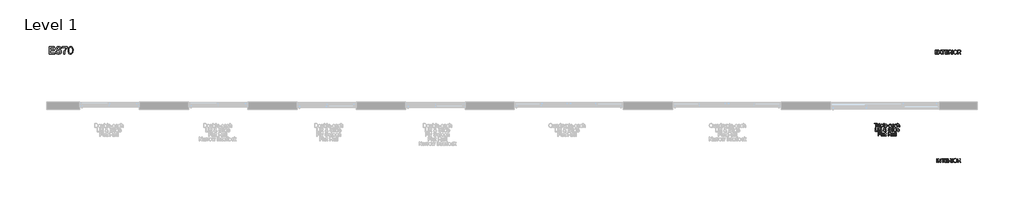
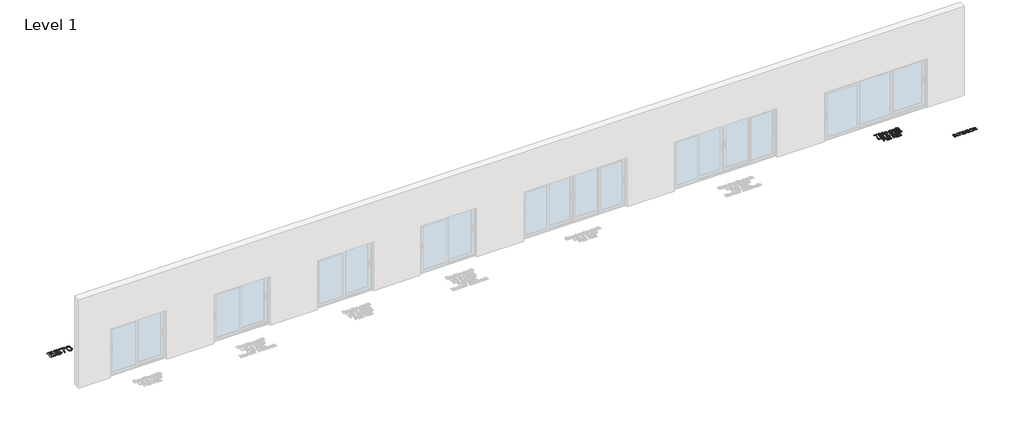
# One storey, part 7 of 7: 4 proxies.
"""IFC4 building model written with IfcOpenShell, lengths in millimetres."""

from ifc_helpers import new_model, si_unit, origin, origin_with_axes, place, context, project, spatial, polyline, outline, extrude, element, save

model = new_model("IFC4")

# Units and contexts
model_context = context("Model", 3, world=origin())
ifc_project = project(units=[si_unit("LENGTHUNIT", "METRE", prefix="MILLI")], contexts=[model_context])

# Site, building, storey
site = spatial("IfcSite", under=ifc_project)
building = spatial("IfcBuilding", under=site)
storey = spatial("IfcBuildingStorey", under=building, Name="Level 1", Elevation=0.0)

# Proxies
placement = place(None, origin())
element("IfcBuildingElementProxy", 1, Name="150mm Arial", ObjectType="150mm Arial", at=placement, inside=storey, context=model_context, shape_type="SweptSolid", body=[
    extrude(outline(polyline([(27815.5972472, 2081.2868462), (27815.5972472, 2231.9713114), (27923.9017066, 2231.9713114), (27923.9017066, 2213.1357532), (27834.4328053, 2213.1357532), (27834.4328053, 2168.4013026), (27919.192817, 2168.4013026), (27919.192817, 2149.5657445), (27834.4328053, 2149.5657445), (27834.4328053, 2100.1224043), (27926.2561513, 2100.1224043), (27926.2561513, 2081.2868462), (27815.5972472, 2081.2868462)])), origin_with_axes(), (0.0, 0.0, 1.0), 10.0),
    extrude(outline(polyline([(27938.0283752, 2081.2868462), (27996.1169422, 2163.3981075), (27947.4461543, 2231.9713114), (27970.0341088, 2231.9713114), (27997.4413174, 2193.3804901), (28006.6751555, 2178.3341165), (28017.4908861, 2193.6380075), (28044.6037892, 2231.9713114), (28067.5228375, 2231.9713114), (28018.8520495, 2163.1773783), (28076.9406166, 2081.2868462), (28054.3526621, 2081.2868462), (28015.6514762, 2135.8805342), (28007.5948605, 2147.2112997), (27998.7289044, 2134.7768883), (27960.9474235, 2081.2868462), (27938.0283752, 2081.2868462)])), origin_with_axes(), (0.0, 0.0, 1.0), 10.0),
    extrude(outline(polyline([(28133.447291, 2081.2868462), (28133.447291, 2213.1357532), (28084.0039509, 2213.1357532), (28084.0039509, 2231.9713114), (28201.7261893, 2231.9713114), (28201.7261893, 2213.1357532), (28152.2828492, 2213.1357532), (28152.2828492, 2081.2868462), (28133.447291, 2081.2868462)])), origin_with_axes(), (0.0, 0.0, 1.0), 10.0),
    extrude(outline(polyline([(28222.9161922, 2081.2868462), (28222.9161922, 2231.9713114), (28331.2206516, 2231.9713114), (28331.2206516, 2213.1357532), (28241.7517504, 2213.1357532), (28241.7517504, 2168.4013026), (28326.5117621, 2168.4013026), (28326.5117621, 2149.5657445), (28241.7517504, 2149.5657445), (28241.7517504, 2100.1224043), (28333.5750964, 2100.1224043), (28333.5750964, 2081.2868462), (28222.9161922, 2081.2868462)])), origin_with_axes(), (0.0, 0.0, 1.0), 10.0),
    extrude(outline(polyline([(28361.8284336, 2081.2868462), (28361.8284336, 2231.9713114), (28426.7596058, 2231.9713114), (28456.9075353, 2227.9062153), (28466.1873586, 2222.2776208), (28473.3886487, 2213.5220293), (28478.0101662, 2202.6649119), (28479.5506721, 2190.7317397), (28476.9984907, 2175.8877012), (28469.3419467, 2163.5820485), (28456.3511138, 2154.5597425), (28437.7960656, 2149.5657445), (28448.5014317, 2141.5091288), (28463.7685345, 2122.1217476), (28488.8948748, 2081.2868462), (28467.005896, 2081.2868462), (28447.3977857, 2112.5200275), (28433.2343289, 2133.1949957), (28423.2831209, 2142.9622626), (28414.3251943, 2146.5491121), (28403.3990991, 2147.2112997), (28380.6639918, 2147.2112997), (28380.6639918, 2081.2868462), (28361.8284336, 2081.2868462)]), holes=[polyline([(28380.6639918, 2166.0468578), (28422.8232684, 2166.0468578), (28444.325971, 2168.7140023), (28456.5396533, 2177.2488646), (28460.7151139, 2190.0327639), (28458.7239526, 2199.2206168), (28452.7504687, 2206.6242419), (28442.4727655, 2211.5078754), (28427.5689462, 2213.1357532), (28380.6639918, 2213.1357532), (28380.6639918, 2166.0468578)])]), origin_with_axes(), (0.0, 0.0, 1.0), 10.0),
    extrude(outline(polyline([(28514.8673436, 2081.2868462), (28514.8673436, 2231.9713114), (28533.7029018, 2231.9713114), (28533.7029018, 2081.2868462), (28514.8673436, 2081.2868462)])), origin_with_axes(), (0.0, 0.0, 1.0), 10.0),
    extrude(outline(polyline([(28564.3106838, 2154.642516), (28569.332273, 2187.9634277), (28575.6092595, 2201.5819593), (28584.3970407, 2213.1725414), (28607.3988625, 2229.0374525), (28636.2316138, 2234.3257562), (28655.996074, 2231.8425527), (28673.7187891, 2224.3929423), (28688.4340689, 2212.5011568), (28699.1762232, 2196.691428), (28705.7429168, 2177.7271112), (28707.9318147, 2156.3715614), (28705.6279537, 2134.730903), (28698.7163707, 2115.4998717), (28687.5787433, 2099.6625518), (28672.5967491, 2088.2030277), (28655.0257853, 2081.250058), (28636.1212492, 2078.9324014), (28616.0532864, 2081.4937798), (28598.2294037, 2089.177915), (28583.5509121, 2101.2904296), (28572.9191225, 2117.1369466), (28566.4627934, 2135.370098), (28564.3106838, 2154.642516)]), holes=[polyline([(28583.1462419, 2154.458575), (28586.9124339, 2130.8865362), (28598.2110096, 2112.9246977), (28615.1933622, 2101.5571441), (28636.0108846, 2097.7679595), (28657.1319097, 2101.5939323), (28674.1418534, 2113.0718505), (28685.3576558, 2131.5855119), (28689.0962565, 2156.5187142), (28687.4959699, 2173.1929656), (28682.6951098, 2187.6047428), (28674.8178366, 2199.3907622), (28663.9883104, 2208.1877404), (28650.923901, 2213.6645836), (28636.3419784, 2215.490198), (28616.0808775, 2211.9723264), (28598.8548031, 2201.4187117), (28587.0733822, 2182.6429344), (28583.1462419, 2154.458575)])]), origin_with_axes(), (0.0, 0.0, 1.0), 10.0),
    extrude(outline(polyline([(28733.8307072, 2081.2868462), (28733.8307072, 2231.9713114), (28798.7618793, 2231.9713114), (28828.9098088, 2227.9062153), (28838.1896321, 2222.2776208), (28845.3909222, 2213.5220293), (28850.0124398, 2202.6649119), (28851.5529456, 2190.7317397), (28849.0007643, 2175.8877012), (28841.3442202, 2163.5820485), (28828.3533873, 2154.5597425), (28809.7983392, 2149.5657445), (28820.5037052, 2141.5091288), (28835.770808, 2122.1217476), (28860.8971483, 2081.2868462), (28839.0081696, 2081.2868462), (28819.4000592, 2112.5200275), (28805.2366024, 2133.1949957), (28795.2853944, 2142.9622626), (28786.3274679, 2146.5491121), (28775.4013726, 2147.2112997), (28752.6662653, 2147.2112997), (28752.6662653, 2081.2868462), (28733.8307072, 2081.2868462)]), holes=[polyline([(28752.6662653, 2166.0468578), (28794.825542, 2166.0468578), (28816.3282446, 2168.7140023), (28828.5419268, 2177.2488646), (28832.7173875, 2190.0327639), (28830.7262262, 2199.2206168), (28824.7527423, 2206.6242419), (28814.475039, 2211.5078754), (28799.5712197, 2213.1357532), (28752.6662653, 2213.1357532), (28752.6662653, 2166.0468578)])]), origin_with_axes(), (0.0, 0.0, 1.0), 10.0),
])
element("IfcBuildingElementProxy", 2, Name="150mm Arial", ObjectType="150mm Arial", at=placement, inside=storey, context=model_context, shape_type="SweptSolid", body=[
    extrude(outline(polyline([(27877.951692, -2318.7131538), (27877.951692, -2168.0286886), (27896.7872501, -2168.0286886), (27896.7872501, -2318.7131538), (27877.951692, -2318.7131538)])), origin_with_axes(), (0.0, 0.0, 1.0), 10.0),
    extrude(outline(polyline([(27934.4583664, -2318.7131538), (27934.4583664, -2168.0286886), (27954.6182998, -2168.0286886), (28033.3450467, -2287.4063961), (28033.3450467, -2168.0286886), (28052.1806049, -2168.0286886), (28052.1806049, -2318.7131538), (28032.0206715, -2318.7131538), (27953.2939246, -2199.2986582), (27953.2939246, -2318.7131538), (27934.4583664, -2318.7131538)])), origin_with_axes(), (0.0, 0.0, 1.0), 10.0),
    extrude(outline(polyline([(28122.8139479, -2318.7131538), (28122.8139479, -2186.8642468), (28073.3706078, -2186.8642468), (28073.3706078, -2168.0286886), (28191.0928463, -2168.0286886), (28191.0928463, -2186.8642468), (28141.6495061, -2186.8642468), (28141.6495061, -2318.7131538), (28122.8139479, -2318.7131538)])), origin_with_axes(), (0.0, 0.0, 1.0), 10.0),
    extrude(outline(polyline([(28212.2828492, -2318.7131538), (28212.2828492, -2168.0286886), (28320.5873086, -2168.0286886), (28320.5873086, -2186.8642468), (28231.1184073, -2186.8642468), (28231.1184073, -2231.5986974), (28315.878419, -2231.5986974), (28315.878419, -2250.4342555), (28231.1184073, -2250.4342555), (28231.1184073, -2299.8775957), (28322.9417533, -2299.8775957), (28322.9417533, -2318.7131538), (28212.2828492, -2318.7131538)])), origin_with_axes(), (0.0, 0.0, 1.0), 10.0),
    extrude(outline(polyline([(28351.1950906, -2318.7131538), (28351.1950906, -2168.0286886), (28416.1262627, -2168.0286886), (28446.2741922, -2172.0937847), (28455.5540155, -2177.7223792), (28462.7553056, -2186.4779707), (28467.3768232, -2197.3350881), (28468.917329, -2209.2682603), (28466.3651477, -2224.1122988), (28458.7086036, -2236.4179515), (28445.7177707, -2245.4402575), (28427.1627226, -2250.4342555), (28437.8680886, -2258.4908712), (28453.1351914, -2277.8782524), (28478.2615317, -2318.7131538), (28456.372553, -2318.7131538), (28436.7644426, -2287.4799725), (28422.6009858, -2266.8050043), (28412.6497778, -2257.0377374), (28403.6918513, -2253.4508879), (28392.765756, -2252.7887003), (28370.0306487, -2252.7887003), (28370.0306487, -2318.7131538), (28351.1950906, -2318.7131538)]), holes=[polyline([(28370.0306487, -2233.9531422), (28412.1899254, -2233.9531422), (28433.692628, -2231.2859977), (28445.9063102, -2222.7511354), (28450.0817709, -2209.9672361), (28448.0906096, -2200.7793832), (28442.1171257, -2193.3757581), (28431.8394224, -2188.4921246), (28416.9356031, -2186.8642468), (28370.0306487, -2186.8642468), (28370.0306487, -2233.9531422)])]), origin_with_axes(), (0.0, 0.0, 1.0), 10.0),
    extrude(outline(polyline([(28504.2340005, -2318.7131538), (28504.2340005, -2168.0286886), (28523.0695587, -2168.0286886), (28523.0695587, -2318.7131538), (28504.2340005, -2318.7131538)])), origin_with_axes(), (0.0, 0.0, 1.0), 10.0),
    extrude(outline(polyline([(28553.6773407, -2245.357484), (28558.6989299, -2212.0365723), (28564.9759165, -2198.4180407), (28573.7636976, -2186.8274586), (28596.7655194, -2170.9625475), (28625.5982708, -2165.6742438), (28645.3627309, -2168.1574473), (28663.0854461, -2175.6070577), (28677.8007259, -2187.4988432), (28688.5428801, -2203.308572), (28695.1095737, -2222.2728888), (28697.2984716, -2243.6284386), (28694.9946106, -2265.269097), (28688.0830276, -2284.5001283), (28676.9454002, -2300.3374482), (28661.963406, -2311.7969723), (28644.3924422, -2318.749942), (28625.4879062, -2321.0675986), (28605.4199433, -2318.5062202), (28587.5960607, -2310.822085), (28572.917569, -2298.7095704), (28562.2857794, -2282.8630534), (28555.8294504, -2264.629902), (28553.6773407, -2245.357484)]), holes=[polyline([(28572.5128989, -2245.541425), (28576.2790908, -2269.1134638), (28587.5776666, -2287.0753023), (28604.5600192, -2298.4428559), (28625.3775416, -2302.2320405), (28646.4985666, -2298.4060677), (28663.5085104, -2286.9281495), (28674.7243127, -2268.4144881), (28678.4629135, -2243.4812858), (28676.8626268, -2226.8070344), (28672.0617667, -2212.3952572), (28664.1844935, -2200.6092378), (28653.3549673, -2191.8122596), (28640.2905579, -2186.3354164), (28625.7086354, -2184.509802), (28605.4475345, -2188.0276736), (28588.22146, -2198.5812883), (28576.4400392, -2217.3570656), (28572.5128989, -2245.541425)])]), origin_with_axes(), (0.0, 0.0, 1.0), 10.0),
    extrude(outline(polyline([(28723.1973641, -2318.7131538), (28723.1973641, -2168.0286886), (28788.1285362, -2168.0286886), (28818.2764657, -2172.0937847), (28827.5562891, -2177.7223792), (28834.7575791, -2186.4779707), (28839.3790967, -2197.3350881), (28840.9196025, -2209.2682603), (28838.3674212, -2224.1122988), (28830.7108772, -2236.4179515), (28817.7200442, -2245.4402575), (28799.1649961, -2250.4342555), (28809.8703621, -2258.4908712), (28825.1374649, -2277.8782524), (28850.2638052, -2318.7131538), (28828.3748265, -2318.7131538), (28808.7667162, -2287.4799725), (28794.6032593, -2266.8050043), (28784.6520514, -2257.0377374), (28775.6941248, -2253.4508879), (28764.7680295, -2252.7887003), (28742.0329222, -2252.7887003), (28742.0329222, -2318.7131538), (28723.1973641, -2318.7131538)]), holes=[polyline([(28742.0329222, -2233.9531422), (28784.1921989, -2233.9531422), (28805.6949015, -2231.2859977), (28817.9085837, -2222.7511354), (28822.0840444, -2209.9672361), (28820.0928831, -2200.7793832), (28814.1193992, -2193.3757581), (28803.8416959, -2188.4921246), (28788.9378766, -2186.8642468), (28742.0329222, -2186.8642468), (28742.0329222, -2233.9531422)])]), origin_with_axes(), (0.0, 0.0, 1.0), 10.0),
])
element("IfcBuildingElementProxy", 3, Name="150mm Arial", ObjectType="150mm Arial", at=placement, inside=storey, context=model_context, shape_type="SweptSolid", body=[
    extrude(outline(polyline([(25405.2111574, -880.8951535), (25405.2111574, -749.0462465), (25355.7678172, -749.0462465), (25355.7678172, -730.2106883), (25473.4900557, -730.2106883), (25473.4900557, -749.0462465), (25424.0467155, -749.0462465), (25424.0467155, -880.8951535), (25405.2111574, -880.8951535)])), origin_with_axes(), (0.0, 0.0, 1.0), 10.0),
    extrude(outline(polyline([(25492.3256138, -880.8951535), (25492.3256138, -770.2362494), (25508.8067272, -770.2362494), (25508.8067272, -786.6069982), (25520.5053747, -771.5238364), (25532.2775985, -767.8818046), (25551.1867331, -773.6943401), (25544.895951, -790.5801237), (25531.6521991, -786.7173628), (25521.0020154, -790.4329709), (25514.2145926, -800.7336668), (25511.161172, -822.7330101), (25511.161172, -880.8951535), (25492.3256138, -880.8951535)])), origin_with_axes(), (0.0, 0.0, 1.0), 10.0),
    extrude(outline(polyline([(25562.9589569, -749.0462465), (25562.9589569, -730.2106883), (25581.7945151, -730.2106883), (25581.7945151, -749.0462465), (25562.9589569, -749.0462465)])), origin_with_axes(), (0.0, 0.0, 1.0), 10.0),
    extrude(outline(polyline([(25562.9589569, -880.8951535), (25562.9589569, -770.2362494), (25581.7945151, -770.2362494), (25581.7945151, -880.8951535), (25562.9589569, -880.8951535)])), origin_with_axes(), (0.0, 0.0, 1.0), 10.0),
    extrude(outline(polyline([(25610.0478523, -923.2751594), (25610.0478523, -770.2362494), (25628.8834105, -770.2362494), (25628.8834105, -788.7039256), (25641.9064331, -773.0873349), (25659.4911925, -767.8818046), (25672.2291065, -769.7028205), (25683.3667339, -775.1658681), (25692.4350251, -783.9398537), (25698.9649305, -795.6936835), (25704.2256431, -824.7195729), (25702.7403195, -840.8282057), (25698.2843488, -855.2353844), (25691.0002853, -867.2099433), (25681.0306833, -876.0207171), (25669.4194078, -881.442378), (25657.2103241, -883.2495983), (25640.8211812, -878.4119501), (25628.8834105, -866.1798737), (25628.8834105, -923.2751594), (25610.0478523, -923.2751594)]), holes=[polyline([(25628.8834105, -826.4486183), (25630.920557, -843.3344018), (25637.0319966, -855.1434139), (25646.0497041, -862.0963836), (25656.8056539, -864.4140402), (25667.7363477, -862.0136101), (25676.9839813, -854.8123201), (25683.288559, -842.5710467), (25685.3900849, -825.0506667), (25683.3391428, -808.2568536), (25677.1863164, -796.2822947), (25668.1824046, -789.1085957), (25657.5782061, -786.7173628), (25646.9326208, -789.2603471), (25637.5838196, -796.8892999), (25631.0585128, -809.3650981), (25628.8834105, -826.4486183)])]), origin_with_axes(), (0.0, 0.0, 1.0), 10.0),
    extrude(outline(polyline([(25725.415646, -880.8951535), (25725.415646, -730.2106883), (25744.2512041, -730.2106883), (25744.2512041, -880.8951535), (25725.415646, -880.8951535)])), origin_with_axes(), (0.0, 0.0, 1.0), 10.0),
    extrude(outline(polyline([(25849.9804896, -847.9329268), (25868.4481657, -850.2873715), (25861.7941001, -864.202508), (25851.176106, -874.6043714), (25836.8333068, -881.0882916), (25819.0048256, -883.2495983), (25796.9043147, -879.5201946), (25779.8989695, -868.3319834), (25769.0556477, -850.4115317), (25765.4412071, -826.4854065), (25769.0924359, -801.7545393), (25780.0461223, -783.259272), (25796.8215413, -771.7261715), (25817.9379678, -767.8818046), (25838.3968052, -771.7169744), (25854.7445614, -783.2224838), (25865.463723, -801.6809629), (25869.0367769, -826.3750419), (25868.9264123, -831.4518134), (25784.2767652, -831.4518134), (25787.5371194, -845.5508909), (25795.11089, -855.9159661), (25806.0415838, -862.2895216), (25819.3727076, -864.4140402), (25837.8403837, -860.4777028), (25849.9804896, -847.9329268)]), holes=[polyline([(25784.2767652, -812.6162552), (25850.2012188, -812.6162552), (25847.6536359, -802.6650473), (25842.6596379, -795.5465307), (25831.6783603, -788.9246547), (25817.8643914, -786.7173628), (25805.167864, -788.4785978), (25794.6694316, -793.762303), (25787.3715725, -801.9982612), (25784.2767652, -812.6162552)])]), origin_with_axes(), (0.0, 0.0, 1.0), 10.0),
    extrude(outline(polyline([(25878.454556, -836.1607029), (25878.454556, -817.3251448), (25937.3156752, -817.3251448), (25937.3156752, -836.1607029), (25878.454556, -836.1607029)])), origin_with_axes(), (0.0, 0.0, 1.0), 10.0),
    extrude(outline(polyline([(25951.4423438, -847.9329268), (25970.277902, -845.578482), (25973.2485491, -853.6350977), (25978.9967053, -859.5579978), (25998.9726976, -864.4140402), (26018.1761378, -859.962668), (26024.4301317, -849.5148194), (26022.8574361, -844.7139593), (26018.1393496, -841.0535335), (25998.7519684, -835.6824563), (25970.3882666, -826.4670124), (25958.0090374, -815.706464), (25953.7967886, -800.5129376), (25957.181303, -786.4782395), (25966.415141, -775.7544793), (25978.3897, -770.1810671), (25994.5949019, -767.8818046), (26017.5139502, -771.5790187), (26032.0820772, -781.5854089), (26038.5568003, -798.4895866), (26019.7212421, -800.8440314), (26012.6395137, -790.451365), (25996.0664298, -786.7173628), (25978.0402121, -790.2858181), (25972.6323467, -798.5999512), (25974.8764269, -804.0813929), (25981.902973, -808.2384595), (25998.126569, -812.2483732), (26025.772901, -821.1143293), (26038.6119826, -831.1575078), (26043.2656898, -847.5282566), (26037.8026422, -865.5544743), (26022.0388987, -878.6326793), (25998.7151802, -883.2495983), (25979.7232722, -881.0239122), (25965.863318, -874.346854), (25956.6110859, -863.2920001), (25951.4423438, -847.9329268)])), origin_with_axes(), (0.0, 0.0, 1.0), 10.0),
    extrude(outline(polyline([(26135.0890358, -866.7684849), (26116.8236948, -879.5339902), (26096.6453673, -883.2495983), (26080.9046165, -881.0147152), (26069.293341, -874.3100658), (26062.1334377, -864.1289316), (26059.7468032, -851.4645939), (26063.3520468, -836.5653731), (26072.8250081, -825.7496425), (26086.0135777, -819.5692249), (26102.31075, -816.7365336), (26134.9786712, -810.2618105), (26135.0890358, -806.0679557), (26133.7922518, -797.6618521), (26129.9018997, -792.1620163), (26121.2014905, -788.0785262), (26109.0797788, -786.7173628), (26090.0234914, -790.3410004), (26080.9368061, -803.1984762), (26062.101248, -800.8440314), (26070.2498342, -782.4499316), (26086.6573712, -771.6709892), (26111.5077999, -767.8818046), (26134.3348777, -771.2295308), (26147.2291417, -779.6356344), (26153.004889, -792.4195337), (26153.924594, -808.9006471), (26153.924594, -832.3347302), (26154.8810872, -865.0578336), (26158.6334835, -880.8951535), (26139.7979254, -880.8951535), (26135.0890358, -866.7684849)]), holes=[polyline([(26135.0890358, -829.0973686), (26104.701983, -834.8731159), (26088.4967811, -837.9265365), (26081.1575353, -842.8929434), (26078.5823614, -850.1402187), (26084.1925618, -860.33055), (26100.6552811, -864.4140402), (26119.7115684, -859.9074857), (26131.9988271, -848.9997846), (26134.9786712, -834.4316576), (26135.0890358, -829.0973686)])]), origin_with_axes(), (0.0, 0.0, 1.0), 10.0),
    extrude(outline(polyline([(26172.7601521, -847.9329268), (26191.5957103, -845.578482), (26194.5663574, -853.6350977), (26200.3145136, -859.5579978), (26220.2905059, -864.4140402), (26239.493946, -859.962668), (26245.74794, -849.5148194), (26244.1752444, -844.7139593), (26239.4571579, -841.0535335), (26220.0697767, -835.6824563), (26191.7060749, -826.4670124), (26179.3268457, -815.706464), (26175.1145969, -800.5129376), (26178.4991112, -786.4782395), (26187.7329493, -775.7544793), (26199.7075083, -770.1810671), (26215.9127102, -767.8818046), (26238.8317585, -771.5790187), (26253.3998855, -781.5854089), (26259.8746086, -798.4895866), (26241.0390504, -800.8440314), (26233.957322, -790.451365), (26217.3842381, -786.7173628), (26199.3580204, -790.2858181), (26193.950155, -798.5999512), (26196.1942352, -804.0813929), (26203.2207813, -808.2384595), (26219.4443773, -812.2483732), (26247.0907093, -821.1143293), (26259.9297909, -831.1575078), (26264.5834981, -847.5282566), (26259.1204505, -865.5544743), (26243.356707, -878.6326793), (26220.0329885, -883.2495983), (26201.0410805, -881.0239122), (26187.1811263, -874.346854), (26177.9288942, -863.2920001), (26172.7601521, -847.9329268)])), origin_with_axes(), (0.0, 0.0, 1.0), 10.0),
    extrude(outline(polyline([(26285.773501, -880.8951535), (26285.773501, -730.2106883), (26304.6090592, -730.2106883), (26304.6090592, -785.6137168), (26319.2967479, -772.3147827), (26337.387345, -767.8818046), (26358.5405597, -772.7194529), (26371.3796413, -786.0919634), (26375.2424023, -810.8504217), (26375.2424023, -880.8951535), (26356.4068441, -880.8951535), (26356.4068441, -812.8001962), (26354.907725, -801.0095783), (26350.4103676, -792.9345685), (26343.1630923, -788.2716642), (26333.4142194, -786.7173628), (26317.9815697, -790.9112175), (26307.6808739, -802.2787712), (26304.6090592, -822.1076107), (26304.6090592, -880.8951535), (26285.773501, -880.8951535)])), origin_with_axes(), (0.0, 0.0, 1.0), 10.0),
    extrude(outline(polyline([(25384.0211545, -1063.8573803), (25384.0211545, -913.1729151), (25402.8567126, -913.1729151), (25402.8567126, -1045.0218222), (25478.1989452, -1045.0218222), (25478.1989452, -1063.8573803), (25384.0211545, -1063.8573803)])), origin_with_axes(), (0.0, 0.0, 1.0), 10.0),
    extrude(outline(polyline([(25497.0345034, -932.0084732), (25497.0345034, -913.1729151), (25515.8700615, -913.1729151), (25515.8700615, -932.0084732), (25497.0345034, -932.0084732)])), origin_with_axes(), (0.0, 0.0, 1.0), 10.0),
    extrude(outline(polyline([(25497.0345034, -1063.8573803), (25497.0345034, -953.1984762), (25515.8700615, -953.1984762), (25515.8700615, -1063.8573803), (25497.0345034, -1063.8573803)])), origin_with_axes(), (0.0, 0.0, 1.0), 10.0),
    extrude(outline(polyline([(25548.8322883, -1063.8573803), (25548.8322883, -972.0340343), (25532.3511749, -972.0340343), (25532.3511749, -953.1984762), (25548.8322883, -953.1984762), (25548.8322883, -942.0516517), (25550.8188511, -926.3430905), (25560.4573594, -915.1226897), (25579.4400703, -910.8184703), (25596.6201595, -912.8786095), (25593.8610445, -930.5369453), (25583.0085257, -929.6540285), (25571.1443313, -932.7810254), (25567.6678465, -944.4428847), (25567.6678465, -953.1984762), (25588.8578494, -953.1984762), (25588.8578494, -972.0340343), (25567.6678465, -972.0340343), (25567.6678465, -1063.8573803), (25548.8322883, -1063.8573803)])), origin_with_axes(), (0.0, 0.0, 1.0), 10.0),
    extrude(outline(polyline([(25645.3645238, -1048.1488191), (25647.7189686, -1064.4092033), (25633.6290882, -1066.2118251), (25617.8469506, -1063.0848281), (25609.9742759, -1054.8810596), (25607.6934075, -1033.5071157), (25607.6934075, -972.0340343), (25593.5667389, -972.0340343), (25593.5667389, -953.1984762), (25607.6934075, -953.1984762), (25607.6934075, -926.3063023), (25626.5289657, -915.2330543), (25626.5289657, -953.1984762), (25645.3645238, -953.1984762), (25645.3645238, -972.0340343), (25626.5289657, -972.0340343), (25626.5289657, -1032.9552927), (25627.5222471, -1042.6673774), (25630.7412145, -1046.107074), (25637.1607553, -1047.3762669), (25645.3645238, -1048.1488191)])), origin_with_axes(), (0.0, 0.0, 1.0), 10.0),
    extrude(outline(polyline([(25809.4766819, -1045.2425514), (25789.5006895, -1060.9695066), (25766.1401829, -1066.2118251), (25745.3548501, -1062.33067), (25729.3519833, -1050.6872049), (25721.1022296, -1037.2871032), (25718.3523117, -1022.3970795), (25720.5642022, -1009.1993129), (25727.1998737, -997.3443156), (25738.231735, -986.8412846), (25753.632195, -977.699417), (25740.4804137, -958.6431297), (25737.1878698, -944.5164611), (25739.7814379, -931.7969411), (25747.5621421, -920.8616488), (25759.2699866, -913.3292649), (25773.6449756, -910.8184703), (25787.3209887, -913.2189003), (25798.256281, -920.4201904), (25805.4299799, -930.9876007), (25807.8212129, -943.4863915), (25806.0507808, -953.9802254), (25800.7394845, -963.683113), (25779.4942993, -980.7160494), (25806.7543551, -1014.6715576), (25814.8845472, -993.8126484), (25833.7201054, -997.8961386), (25820.4027771, -1028.9085908), (25843.1378844, -1051.7172745), (25829.0112158, -1066.2118251), (25809.4766819, -1045.2425514)]), holes=[polyline([(25769.9661556, -968.833461), (25785.4539876, -957.1532076), (25788.9856548, -946.0615655), (25784.3319475, -934.2341593), (25772.6884824, -929.6540285), (25760.7874998, -934.1973711), (25756.023428, -945.2890133), (25757.6421088, -952.1868007), (25762.5349393, -959.8571403), (25769.9661556, -968.833461)]), polyline([(25796.8583295, -1031.6677057), (25763.2339151, -989.6923701), (25742.5405529, -1005.4745077), (25737.1878698, -1019.8954819), (25739.0180828, -1028.7798321), (25744.5087215, -1037.995276), (25753.3562835, -1045.0310192), (25765.2572661, -1047.3762669), (25782.5661139, -1042.9984712), (25796.8583295, -1031.6677057)])]), origin_with_axes(), (0.0, 0.0, 1.0), 10.0),
    extrude(outline(polyline([(25916.1256723, -1012.0595954), (25934.9612304, -1012.0595954), (25941.0312834, -1030.9135476), (25955.8569278, -1042.8329243), (25978.4448823, -1047.3762669), (25998.126569, -1043.9365703), (26010.8368919, -1034.482003), (26015.0123526, -1021.8452565), (26011.8853556, -1010.0914267), (25999.0830622, -1001.5381703), (25971.6574595, -994.3460773), (25942.1349293, -985.0570569), (25926.1136685, -971.0407529), (25920.8345618, -952.3155594), (25922.4670382, -941.283698), (25927.3644672, -930.9967978), (25935.3980903, -922.2779945), (25946.4391487, -915.9504241), (25974.3613921, -910.8184703), (26004.1598337, -916.1895474), (26015.5825697, -922.8206204), (26024.0254615, -931.971685), (26029.3689475, -943.0725242), (26031.493466, -955.5529209), (26012.6579078, -955.5529209), (26009.1998171, -944.314126), (26001.98933, -936.202328), (25990.7229439, -931.2911033), (25975.0971561, -929.6540285), (25959.1034864, -931.2727092), (25948.1314059, -936.1287516), (25941.7854415, -943.2748593), (25939.67012, -951.7637364), (25941.1692391, -959.0018146), (25945.6665965, -964.8235472), (25976.4215313, -975.3449723), (26009.7516401, -984.7995395), (26020.4891958, -991.6329476), (26027.9801929, -1000.0666423), (26032.3809813, -1010.0086533), (26033.8479107, -1021.3670099), (26032.1602521, -1032.9782853), (26027.0972761, -1043.8997821), (26018.8659165, -1053.299167), (26007.6731068, -1060.3441073), (25994.2132243, -1064.7448956), (25979.1806463, -1066.2118251), (25960.7267657, -1064.6299325), (25945.5378378, -1059.8842548), (25933.4391187, -1051.9563978), (25924.2558644, -1040.8279674), (25918.3605554, -1027.2715159), (25916.1256723, -1012.0595954)])), origin_with_axes(), (0.0, 0.0, 1.0), 10.0),
    extrude(outline(polyline([(26059.7468032, -1063.8573803), (26059.7468032, -913.1729151), (26078.5823614, -913.1729151), (26078.5823614, -1063.8573803), (26059.7468032, -1063.8573803)])), origin_with_axes(), (0.0, 0.0, 1.0), 10.0),
    extrude(outline(polyline([(26106.8356986, -932.0084732), (26106.8356986, -913.1729151), (26125.6712567, -913.1729151), (26125.6712567, -932.0084732), (26106.8356986, -932.0084732)])), origin_with_axes(), (0.0, 0.0, 1.0), 10.0),
    extrude(outline(polyline([(26106.8356986, -1063.8573803), (26106.8356986, -953.1984762), (26125.6712567, -953.1984762), (26125.6712567, -1063.8573803), (26106.8356986, -1063.8573803)])), origin_with_axes(), (0.0, 0.0, 1.0), 10.0),
    extrude(outline(polyline([(26222.2034923, -1063.8573803), (26222.2034923, -1046.0886799), (26209.7414897, -1061.1810388), (26192.5154153, -1066.2118251), (26180.3385212, -1064.3908092), (26169.1916968, -1058.9277616), (26159.7555236, -1050.2043598), (26152.7105834, -1038.6022813), (26148.3235906, -1024.5905758), (26146.8612597, -1008.6382928), (26152.2507309, -978.6559102), (26158.9829714, -966.7641247), (26168.4007505, -958.0177303), (26179.7912968, -952.6374561), (26192.4418389, -950.8440314), (26209.805869, -955.9759852), (26222.2034923, -969.3117075), (26222.2034923, -913.1729151), (26241.0390504, -913.1729151), (26241.0390504, -1063.8573803), (26222.2034923, -1063.8573803)]), holes=[polyline([(26165.6968178, -1008.5647164), (26167.8213363, -1025.6022513), (26174.1948919, -1037.7193646), (26183.4563211, -1044.9620413), (26194.2444606, -1047.3762669), (26205.0280016, -1045.0724059), (26214.0549061, -1038.1608229), (26220.1663457, -1026.5127593), (26222.2034923, -1009.9994562), (26220.1295575, -991.9456473), (26213.9077533, -979.4284624), (26204.6509226, -972.1168078), (26193.4719085, -969.6795895), (26182.5734043, -972.0202387), (26173.6430689, -979.0421863), (26167.6833806, -991.1041172), (26165.6968178, -1008.5647164)])]), origin_with_axes(), (0.0, 0.0, 1.0), 10.0),
    extrude(outline(polyline([(26346.7683358, -1030.8951535), (26365.236012, -1033.2495983), (26358.5819464, -1047.1647348), (26347.9639523, -1057.5665982), (26333.621153, -1064.0505184), (26315.7926718, -1066.2118251), (26293.692161, -1062.4824214), (26276.6868158, -1051.2942102), (26265.843494, -1033.3737585), (26262.2290534, -1009.4476332), (26265.8802822, -984.7167661), (26276.8339686, -966.2214988), (26293.6093875, -954.6883982), (26314.7258141, -950.8440314), (26335.1846515, -954.6792012), (26351.5324077, -966.1847106), (26362.2515693, -984.6431897), (26365.8246232, -1009.3372686), (26365.7142586, -1014.4140402), (26281.0646115, -1014.4140402), (26284.3249657, -1028.5131176), (26291.8987363, -1038.8781928), (26302.82943, -1045.2517484), (26316.1605538, -1047.3762669), (26334.62823, -1043.4399296), (26346.7683358, -1030.8951535)]), holes=[polyline([(26281.0646115, -995.578482), (26346.989065, -995.578482), (26344.4414822, -985.627274), (26339.4474841, -978.5087574), (26328.4662066, -971.8868815), (26314.6522377, -969.6795895), (26301.9557103, -971.4408246), (26291.4572779, -976.7245298), (26284.1594188, -984.9604879), (26281.0646115, -995.578482)])]), origin_with_axes(), (0.0, 0.0, 1.0), 10.0),
    extrude(outline(polyline([(25501.7433929, -1246.8196071), (25501.7433929, -1096.1351419), (25602.984518, -1096.1351419), (25602.984518, -1114.9707), (25520.5789511, -1114.9707), (25520.5789511, -1159.7051506), (25591.2122941, -1159.7051506), (25591.2122941, -1178.5407088), (25520.5789511, -1178.5407088), (25520.5789511, -1246.8196071), (25501.7433929, -1246.8196071)])), origin_with_axes(), (0.0, 0.0, 1.0), 10.0),
    extrude(outline(polyline([(25626.5289657, -1246.8196071), (25626.5289657, -1096.1351419), (25645.3645238, -1096.1351419), (25645.3645238, -1246.8196071), (25626.5289657, -1246.8196071)])), origin_with_axes(), (0.0, 0.0, 1.0), 10.0),
    extrude(outline(polyline([(25744.2512041, -1232.6929385), (25725.9858631, -1245.4584437), (25705.8075356, -1249.1740518), (25690.0667848, -1246.9391687), (25678.4555093, -1240.2345194), (25671.295606, -1230.0533851), (25668.9089715, -1217.3890475), (25672.5142151, -1202.4898267), (25681.9871765, -1191.674096), (25695.175746, -1185.4936785), (25711.4729184, -1182.6609871), (25744.1408395, -1176.186264), (25744.2512041, -1171.9924093), (25742.9544201, -1163.5863057), (25739.064068, -1158.0864698), (25730.3636588, -1154.0029797), (25718.2419471, -1152.6418163), (25699.1856597, -1156.265454), (25690.0989745, -1169.1229297), (25671.2634163, -1166.7684849), (25679.4120025, -1148.3743852), (25695.8195395, -1137.5954427), (25720.6699683, -1133.8062582), (25743.4970461, -1137.1539843), (25756.39131, -1145.5600879), (25762.1670573, -1158.3439872), (25763.0867623, -1174.8251006), (25763.0867623, -1198.2591837), (25764.0432555, -1230.9822872), (25767.7956518, -1246.8196071), (25748.9600937, -1246.8196071), (25744.2512041, -1232.6929385)]), holes=[polyline([(25744.2512041, -1195.0218222), (25713.8641513, -1200.7975695), (25697.6589495, -1203.85099), (25690.3197036, -1208.817397), (25687.7445297, -1216.0646723), (25693.3547301, -1226.2550035), (25709.8174494, -1230.3384937), (25728.8737367, -1225.8319393), (25741.1609954, -1214.9242381), (25744.1408395, -1200.3561111), (25744.2512041, -1195.0218222)])]), origin_with_axes(), (0.0, 0.0, 1.0), 10.0),
    extrude(outline(polyline([(25829.0112158, -1231.1110459), (25831.3656606, -1247.3714301), (25817.2757802, -1249.1740518), (25801.4936426, -1246.0470549), (25793.6209679, -1237.8432864), (25791.3400995, -1216.4693425), (25791.3400995, -1154.9962611), (25777.2134309, -1154.9962611), (25777.2134309, -1136.1607029), (25791.3400995, -1136.1607029), (25791.3400995, -1109.2685291), (25810.1756577, -1098.195281), (25810.1756577, -1136.1607029), (25829.0112158, -1136.1607029), (25829.0112158, -1154.9962611), (25810.1756577, -1154.9962611), (25810.1756577, -1215.9175195), (25811.1689391, -1225.6296042), (25814.3879065, -1229.0693008), (25820.8074473, -1230.3384937), (25829.0112158, -1231.1110459)])), origin_with_axes(), (0.0, 0.0, 1.0), 10.0),
    extrude(outline(polyline([(25909.062338, -1246.8196071), (25909.062338, -1096.1351419), (25973.9935101, -1096.1351419), (26004.1414396, -1100.2002379), (26013.421263, -1105.8288324), (26020.622553, -1114.5844239), (26025.2440706, -1125.4415413), (26026.7845764, -1137.3747135), (26024.2323951, -1152.218752), (26016.5758511, -1164.5244048), (26003.5850181, -1173.5467107), (25985.02997, -1178.5407088), (25995.735336, -1186.5973245), (26011.0024388, -1205.9847056), (26036.1287791, -1246.8196071), (26014.2398004, -1246.8196071), (25994.6316901, -1215.5864257), (25980.4682332, -1194.9114576), (25970.5170253, -1185.1441906), (25961.5590987, -1181.5573411), (25950.6330034, -1180.8951535), (25927.8978961, -1180.8951535), (25927.8978961, -1246.8196071), (25909.062338, -1246.8196071)]), holes=[polyline([(25927.8978961, -1162.0595954), (25970.0571728, -1162.0595954), (25991.5598754, -1159.3924509), (26003.7735576, -1150.8575886), (26007.9490183, -1138.0736893), (26005.957857, -1128.8858365), (25999.9843731, -1121.4822113), (25989.7066698, -1116.5985778), (25974.8028505, -1114.9707), (25927.8978961, -1114.9707), (25927.8978961, -1162.0595954)])]), origin_with_axes(), (0.0, 0.0, 1.0), 10.0),
    extrude(outline(polyline([(26128.0257015, -1232.6929385), (26109.7603605, -1245.4584437), (26089.582033, -1249.1740518), (26073.8412821, -1246.9391687), (26062.2300067, -1240.2345194), (26055.0701033, -1230.0533851), (26052.6834689, -1217.3890475), (26056.2887125, -1202.4898267), (26065.7616738, -1191.674096), (26078.9502434, -1185.4936785), (26095.2474157, -1182.6609871), (26127.9153369, -1176.186264), (26128.0257015, -1171.9924093), (26126.7289175, -1163.5863057), (26122.8385654, -1158.0864698), (26114.1381562, -1154.0029797), (26102.0164445, -1152.6418163), (26082.9601571, -1156.265454), (26073.8734718, -1169.1229297), (26055.0379137, -1166.7684849), (26063.1864999, -1148.3743852), (26079.5940368, -1137.5954427), (26104.4444656, -1133.8062582), (26127.2715434, -1137.1539843), (26140.1658074, -1145.5600879), (26145.9415547, -1158.3439872), (26146.8612597, -1174.8251006), (26146.8612597, -1198.2591837), (26147.8177529, -1230.9822872), (26151.5701492, -1246.8196071), (26132.734591, -1246.8196071), (26128.0257015, -1232.6929385)]), holes=[polyline([(26128.0257015, -1195.0218222), (26097.6386487, -1200.7975695), (26081.4334468, -1203.85099), (26074.094201, -1208.817397), (26071.5190271, -1216.0646723), (26077.1292275, -1226.2550035), (26093.5919468, -1230.3384937), (26112.6482341, -1225.8319393), (26124.9354928, -1214.9242381), (26127.9153369, -1200.3561111), (26128.0257015, -1195.0218222)])]), origin_with_axes(), (0.0, 0.0, 1.0), 10.0),
    extrude(outline(polyline([(26172.7601521, -1114.9707), (26172.7601521, -1096.1351419), (26191.5957103, -1096.1351419), (26191.5957103, -1114.9707), (26172.7601521, -1114.9707)])), origin_with_axes(), (0.0, 0.0, 1.0), 10.0),
    extrude(outline(polyline([(26172.7601521, -1246.8196071), (26172.7601521, -1136.1607029), (26191.5957103, -1136.1607029), (26191.5957103, -1246.8196071), (26172.7601521, -1246.8196071)])), origin_with_axes(), (0.0, 0.0, 1.0), 10.0),
    extrude(outline(polyline([(26219.8490475, -1246.8196071), (26219.8490475, -1096.1351419), (26238.6846057, -1096.1351419), (26238.6846057, -1246.8196071), (26219.8490475, -1246.8196071)])), origin_with_axes(), (0.0, 0.0, 1.0), 10.0),
])
element("IfcBuildingElementProxy", 4, Name="300mm Arial", ObjectType="300mm Arial", at=placement, inside=storey, context=model_context, shape_type="SweptSolid", body=[
    extrude(outline(polyline([(-8067.9216394, 2081.2868462), (-8067.9216394, 2382.6557766), (-7851.3127207, 2382.6557766), (-7851.3127207, 2344.9846603), (-8030.2505231, 2344.9846603), (-8030.2505231, 2255.5157591), (-7860.7304997, 2255.5157591), (-7860.7304997, 2217.8446428), (-8030.2505231, 2217.8446428), (-8030.2505231, 2118.9579625), (-7846.6038311, 2118.9579625), (-7846.6038311, 2081.2868462), (-8067.9216394, 2081.2868462)])), origin_with_axes(), (0.0, 0.0, 1.0), 10.0),
    extrude(outline(polyline([(-7804.2238253, 2184.882416), (-7766.552709, 2184.882416), (-7762.2300955, 2163.9775216), (-7754.4126031, 2147.1745115), (-7742.217315, 2133.8387892), (-7724.7613143, 2123.3357582), (-7703.4241586, 2116.5207442), (-7679.5854053, 2114.2490729), (-7658.5977375, 2115.9689213), (-7640.2220318, 2121.1284662), (-7625.3320081, 2129.2954465), (-7614.801386, 2140.0376008), (-7608.538195, 2152.3708447), (-7606.4504647, 2165.3110939), (-7608.0139632, 2177.9202492), (-7612.7044586, 2188.8187533), (-7622.2326023, 2198.1169708), (-7638.3090455, 2205.9252661), (-7693.1602509, 2220.3094521), (-7729.1667012, 2229.8283988), (-7752.2053112, 2238.8874929), (-7770.9580959, 2251.5610276), (-7784.2478329, 2266.9201009), (-7792.1664929, 2284.633619), (-7794.8060462, 2304.370488), (-7791.5410935, 2326.4342107), (-7781.7462354, 2347.0080113), (-7765.6789892, 2364.4456178), (-7743.5968725, 2377.1007585), (-7717.0909747, 2384.7986892), (-7687.7523856, 2387.3646661), (-7655.9673812, 2384.6791276), (-7628.1555024, 2376.6225119), (-7605.3100305, 2363.360366), (-7588.4242469, 2345.0582367), (-7577.737275, 2322.8565583), (-7573.4882379, 2297.8957649), (-7611.1593542, 2297.8957649), (-7618.0755357, 2320.3733548), (-7632.4965099, 2336.5969508), (-7655.0292821, 2346.4194001), (-7686.2808576, 2349.6935498), (-7718.2681971, 2346.4561883), (-7740.2123581, 2336.7441036), (-7752.904287, 2322.4518881), (-7757.1349299, 2305.474134), (-7754.1366916, 2290.9979775), (-7745.1419769, 2279.3545124), (-7723.8783975, 2268.9434519), (-7683.6321073, 2258.3116622), (-7642.09823, 2248.2133015), (-7616.9718897, 2239.4025277), (-7595.4967783, 2225.7357116), (-7580.514784, 2208.8683221), (-7571.7132073, 2188.9843002), (-7568.7793484, 2166.267587), (-7572.1546657, 2143.0450361), (-7582.2806176, 2121.2020426), (-7598.7433369, 2102.4032727), (-7621.1289563, 2088.3133923), (-7648.0487213, 2079.5118155), (-7678.1138773, 2076.5779566), (-7715.0216385, 2079.7417418), (-7745.3994943, 2089.2330973), (-7769.5969325, 2105.0888112), (-7787.9634411, 2127.345672), (-7799.754059, 2154.458575), (-7804.2238253, 2184.882416)])), origin_with_axes(), (0.0, 0.0, 1.0), 10.0),
    extrude(outline(polyline([(-7526.3993425, 2340.2757708), (-7526.3993425, 2377.9468871), (-7328.6259819, 2377.9468871), (-7328.6259819, 2347.4862579), (-7356.8149398, 2311.8109014), (-7384.7279862, 2266.4418543), (-7409.3484887, 2215.5177891), (-7427.659815, 2163.1773783), (-7436.6361357, 2124.0163399), (-7441.6393308, 2081.2868462), (-7479.3104471, 2081.2868462), (-7475.236154, 2120.1167907), (-7464.3376499, 2166.267587), (-7446.9092404, 2215.1866954), (-7423.2452311, 2262.321576), (-7395.6172932, 2304.9315081), (-7366.2970982, 2340.2757708), (-7526.3993425, 2340.2757708)])), origin_with_axes(), (0.0, 0.0, 1.0), 10.0),
    extrude(outline(polyline([(-7295.6637552, 2229.5432902), (-7292.8954431, 2277.7818168), (-7284.5905071, 2316.2530765), (-7270.8317205, 2345.5456803), (-7251.7018567, 2366.2482396), (-7227.0629601, 2378.5538924), (-7196.7770748, 2382.6557766), (-7173.563721, 2380.2277554), (-7152.7783882, 2372.9436919), (-7135.395964, 2361.0886946), (-7122.3913354, 2344.9478721), (-7112.5688862, 2324.6591801), (-7104.7329997, 2300.3605743), (-7099.6010458, 2269.5044719), (-7097.8903945, 2229.5432902), (-7100.6311154, 2181.5806751), (-7108.853278, 2143.2013859), (-7122.5292912, 2113.8811909), (-7141.6315638, 2093.0958582), (-7166.3256427, 2080.707432), (-7196.7770748, 2076.5779566), (-7217.5256194, 2078.3713813), (-7235.9197191, 2083.7516555), (-7251.9593741, 2092.7187792), (-7265.6445843, 2105.2727522), (-7278.7779716, 2127.9664728), (-7288.1589625, 2156.2428027), (-7293.787557, 2190.1017418), (-7295.6637552, 2229.5432902)]), holes=[polyline([(-7257.9926388, 2229.6168666), (-7253.5780549, 2170.3602742), (-7248.059825, 2150.0922756), (-7240.3343031, 2136.0644752), (-7220.6158281, 2119.7029235), (-7196.7770748, 2114.2490729), (-7172.9383216, 2119.7213176), (-7153.2198466, 2136.1380516), (-7145.4943247, 2150.1888446), (-7139.9760948, 2170.4522447), (-7135.5615109, 2229.6168666), (-7139.828942, 2287.5398868), (-7145.1632309, 2307.7412068), (-7152.6312354, 2322.1024002), (-7172.3129222, 2339.2640953), (-7197.2185332, 2344.9846603), (-7220.7997691, 2339.944677), (-7239.7456919, 2324.824727), (-7247.7287312, 2309.1897422), (-7253.4309021, 2288.1101038), (-7257.9926388, 2229.6168666)])]), origin_with_axes(), (0.0, 0.0, 1.0), 10.0),
])

save(model, "model.ifc")
